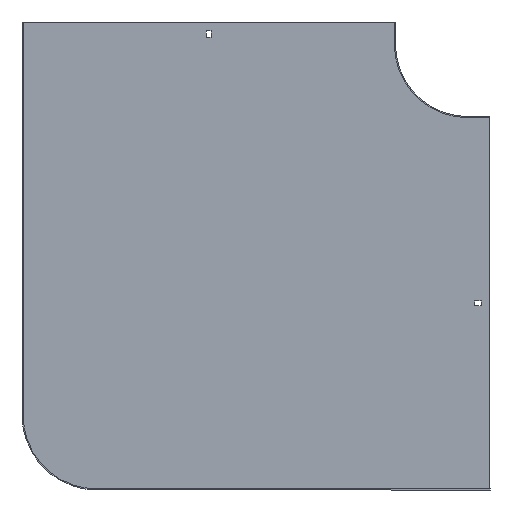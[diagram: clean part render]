
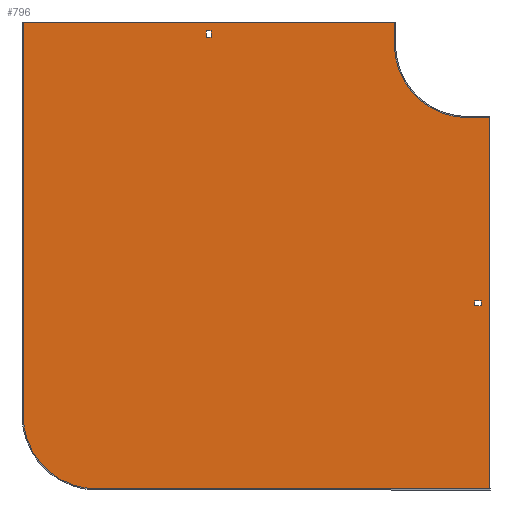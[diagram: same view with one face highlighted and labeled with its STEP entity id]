
A CAD part, front view. The second image highlights one B-rep face of the part: STEP entity #796.
In plain terms, the highlighted planar face has unit normal (0, -1, 0).
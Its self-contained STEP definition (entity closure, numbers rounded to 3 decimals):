
#9 = DIRECTION ( 'NONE',  ( 1., 0., 0. ) ) ;
#11 = ORIENTED_EDGE ( 'NONE', *, *, #288, .F. ) ;
#22 = DIRECTION ( 'NONE',  ( 0., 0., 1. ) ) ;
#23 = CARTESIAN_POINT ( 'NONE',  ( 0., -1.5, -348.75 ) ) ;
#29 = DIRECTION ( 'NONE',  ( 0., 0., -1. ) ) ;
#30 = EDGE_CURVE ( 'NONE', #336, #449, #264, .T. ) ;
#38 = VERTEX_POINT ( 'NONE', #388 ) ;
#49 = VERTEX_POINT ( 'NONE', #462 ) ;
#56 = DIRECTION ( 'NONE',  ( -1., 0., 0. ) ) ;
#58 = VERTEX_POINT ( 'NONE', #215 ) ;
#66 = LINE ( 'NONE', #542, #458 ) ;
#68 = CARTESIAN_POINT ( 'NONE',  ( -605.5, -1.5, 30. ) ) ;
#70 = VERTEX_POINT ( 'NONE', #780 ) ;
#83 = VECTOR ( 'NONE', #845, 1000. ) ;
#85 = CARTESIAN_POINT ( 'NONE',  ( -604., -1.5, 30. ) ) ;
#90 = FACE_OUTER_BOUND ( 'NONE', #594, .T. ) ;
#92 = ORIENTED_EDGE ( 'NONE', *, *, #446, .F. ) ;
#94 = CARTESIAN_POINT ( 'NONE',  ( 30., -1.5, -604. ) ) ;
#95 = CARTESIAN_POINT ( 'NONE',  ( 0., -1.5, 0. ) ) ;
#101 = CARTESIAN_POINT ( 'NONE',  ( -604., -1.5, -504. ) ) ;
#109 = CARTESIAN_POINT ( 'NONE',  ( 18., -1.5, -355.25 ) ) ;
#112 = LINE ( 'NONE', #575, #83 ) ;
#117 = LINE ( 'NONE', #698, #179 ) ;
#118 = EDGE_CURVE ( 'NONE', #514, #38, #539, .T. ) ;
#119 = CARTESIAN_POINT ( 'NONE',  ( 0., -1.5, 0. ) ) ;
#123 = LINE ( 'NONE', #605, #272 ) ;
#138 = DIRECTION ( 'NONE',  ( 1., 0., 0. ) ) ;
#147 = CARTESIAN_POINT ( 'NONE',  ( 18., -1.5, 0. ) ) ;
#151 = ORIENTED_EDGE ( 'NONE', *, *, #452, .F. ) ;
#156 = CARTESIAN_POINT ( 'NONE',  ( 0., -1.5, -355.25 ) ) ;
#159 = ORIENTED_EDGE ( 'NONE', *, *, #858, .F. ) ;
#179 = VECTOR ( 'NONE', #374, 1000. ) ;
#197 = VERTEX_POINT ( 'NONE', #447 ) ;
#202 = EDGE_CURVE ( 'NONE', #58, #783, #123, .T. ) ;
#207 = LINE ( 'NONE', #147, #271 ) ;
#211 = VECTOR ( 'NONE', #346, 1000. ) ;
#213 = VERTEX_POINT ( 'NONE', #316 ) ;
#215 = CARTESIAN_POINT ( 'NONE',  ( 30., -1.5, -100. ) ) ;
#221 = VECTOR ( 'NONE', #649, 1000. ) ;
#228 = LINE ( 'NONE', #464, #801 ) ;
#230 = CARTESIAN_POINT ( 'NONE',  ( 0., -1.5, 9. ) ) ;
#235 = DIRECTION ( 'NONE',  ( -1., 0., 0. ) ) ;
#246 = ORIENTED_EDGE ( 'NONE', *, *, #746, .F. ) ;
#253 = LINE ( 'NONE', #535, #625 ) ;
#260 = EDGE_CURVE ( 'NONE', #756, #213, #740, .T. ) ;
#264 = CIRCLE ( 'NONE', #624, 100. ) ;
#266 = LINE ( 'NONE', #23, #211 ) ;
#270 = FACE_BOUND ( 'NONE', #367, .T. ) ;
#271 = VECTOR ( 'NONE', #22, 1000. ) ;
#272 = VECTOR ( 'NONE', #463, 1000. ) ;
#278 = VECTOR ( 'NONE', #138, 1000. ) ;
#288 = EDGE_CURVE ( 'NONE', #70, #574, #266, .T. ) ;
#292 = AXIS2_PLACEMENT_3D ( 'NONE', #95, #631, #29 ) ;
#302 = VERTEX_POINT ( 'NONE', #511 ) ;
#316 = CARTESIAN_POINT ( 'NONE',  ( -100., -1.5, 30. ) ) ;
#319 = ORIENTED_EDGE ( 'NONE', *, *, #260, .F. ) ;
#325 = EDGE_CURVE ( 'NONE', #302, #672, #842, .T. ) ;
#326 = CARTESIAN_POINT ( 'NONE',  ( -348.75, -1.5, 0. ) ) ;
#336 = VERTEX_POINT ( 'NONE', #634 ) ;
#337 = LINE ( 'NONE', #156, #340 ) ;
#340 = VECTOR ( 'NONE', #477, 1000. ) ;
#346 = DIRECTION ( 'NONE',  ( -1., 0., 0. ) ) ;
#357 = VECTOR ( 'NONE', #235, 1000. ) ;
#367 = EDGE_LOOP ( 'NONE', ( #729, #578, #751, #528 ) ) ;
#374 = DIRECTION ( 'NONE',  ( 1., 0., 0. ) ) ;
#376 = LINE ( 'NONE', #450, #221 ) ;
#385 = ORIENTED_EDGE ( 'NONE', *, *, #573, .F. ) ;
#388 = CARTESIAN_POINT ( 'NONE',  ( 0., -1.5, -100. ) ) ;
#395 = EDGE_LOOP ( 'NONE', ( #11, #775, #246, #159 ) ) ;
#408 = VERTEX_POINT ( 'NONE', #505 ) ;
#416 = PLANE ( 'NONE',  #292 ) ;
#418 = DIRECTION ( 'NONE',  ( 0., 0., -1. ) ) ;
#440 = ORIENTED_EDGE ( 'NONE', *, *, #589, .F. ) ;
#446 = EDGE_CURVE ( 'NONE', #38, #58, #117, .T. ) ;
#447 = CARTESIAN_POINT ( 'NONE',  ( -348.75, -1.5, 18. ) ) ;
#449 = VERTEX_POINT ( 'NONE', #101 ) ;
#450 = CARTESIAN_POINT ( 'NONE',  ( -100., -1.5, 30. ) ) ;
#452 = EDGE_CURVE ( 'NONE', #783, #336, #585, .T. ) ;
#454 = CARTESIAN_POINT ( 'NONE',  ( -504., -1.5, -504. ) ) ;
#458 = VECTOR ( 'NONE', #469, 1000. ) ;
#462 = CARTESIAN_POINT ( 'NONE',  ( -355.25, -1.5, 18. ) ) ;
#463 = DIRECTION ( 'NONE',  ( 0., 0., -1. ) ) ;
#464 = CARTESIAN_POINT ( 'NONE',  ( 0., -1.5, 18. ) ) ;
#469 = DIRECTION ( 'NONE',  ( 0., 0., -1. ) ) ;
#472 = VERTEX_POINT ( 'NONE', #109 ) ;
#477 = DIRECTION ( 'NONE',  ( 1., 0., 0. ) ) ;
#505 = CARTESIAN_POINT ( 'NONE',  ( 9., -1.5, -355.25 ) ) ;
#507 = ORIENTED_EDGE ( 'NONE', *, *, #118, .F. ) ;
#509 = EDGE_CURVE ( 'NONE', #672, #49, #253, .T. ) ;
#511 = CARTESIAN_POINT ( 'NONE',  ( -348.75, -1.5, 9. ) ) ;
#514 = VERTEX_POINT ( 'NONE', #590 ) ;
#528 = ORIENTED_EDGE ( 'NONE', *, *, #509, .T. ) ;
#535 = CARTESIAN_POINT ( 'NONE',  ( -355.25, -1.5, 0. ) ) ;
#539 = CIRCLE ( 'NONE', #681, 100. ) ;
#541 = ORIENTED_EDGE ( 'NONE', *, *, #30, .F. ) ;
#542 = CARTESIAN_POINT ( 'NONE',  ( 9., -1.5, 0. ) ) ;
#568 = CARTESIAN_POINT ( 'NONE',  ( -355.25, -1.5, 9. ) ) ;
#570 = VECTOR ( 'NONE', #56, 1000. ) ;
#573 = EDGE_CURVE ( 'NONE', #213, #514, #376, .T. ) ;
#574 = VERTEX_POINT ( 'NONE', #629 ) ;
#575 = CARTESIAN_POINT ( 'NONE',  ( -604., -1.5, -504. ) ) ;
#578 = ORIENTED_EDGE ( 'NONE', *, *, #815, .T. ) ;
#585 = LINE ( 'NONE', #633, #357 ) ;
#589 = EDGE_CURVE ( 'NONE', #449, #756, #112, .T. ) ;
#590 = CARTESIAN_POINT ( 'NONE',  ( -100., -1.5, 0. ) ) ;
#594 = EDGE_LOOP ( 'NONE', ( #319, #440, #541, #151, #759, #92, #507, #385 ) ) ;
#595 = DIRECTION ( 'NONE',  ( 0., 0., -1. ) ) ;
#601 = LINE ( 'NONE', #326, #662 ) ;
#605 = CARTESIAN_POINT ( 'NONE',  ( 30., -1.5, -98.5 ) ) ;
#624 = AXIS2_PLACEMENT_3D ( 'NONE', #454, #675, #595 ) ;
#625 = VECTOR ( 'NONE', #784, 1000. ) ;
#629 = CARTESIAN_POINT ( 'NONE',  ( 9., -1.5, -348.75 ) ) ;
#631 = DIRECTION ( 'NONE',  ( 0., -1., 0. ) ) ;
#633 = CARTESIAN_POINT ( 'NONE',  ( 30., -1.5, -604. ) ) ;
#634 = CARTESIAN_POINT ( 'NONE',  ( -504., -1.5, -604. ) ) ;
#649 = DIRECTION ( 'NONE',  ( 0., 0., -1. ) ) ;
#653 = DIRECTION ( 'NONE',  ( 0., -1., 0. ) ) ;
#662 = VECTOR ( 'NONE', #663, 1000. ) ;
#663 = DIRECTION ( 'NONE',  ( 0., 0., -1. ) ) ;
#672 = VERTEX_POINT ( 'NONE', #568 ) ;
#675 = DIRECTION ( 'NONE',  ( 0., 1., 0. ) ) ;
#681 = AXIS2_PLACEMENT_3D ( 'NONE', #119, #653, #418 ) ;
#684 = EDGE_CURVE ( 'NONE', #472, #70, #207, .T. ) ;
#697 = FACE_BOUND ( 'NONE', #395, .T. ) ;
#698 = CARTESIAN_POINT ( 'NONE',  ( 0., -1.5, -100. ) ) ;
#729 = ORIENTED_EDGE ( 'NONE', *, *, #808, .T. ) ;
#740 = LINE ( 'NONE', #68, #278 ) ;
#746 = EDGE_CURVE ( 'NONE', #408, #472, #337, .T. ) ;
#751 = ORIENTED_EDGE ( 'NONE', *, *, #325, .T. ) ;
#756 = VERTEX_POINT ( 'NONE', #85 ) ;
#759 = ORIENTED_EDGE ( 'NONE', *, *, #202, .F. ) ;
#775 = ORIENTED_EDGE ( 'NONE', *, *, #684, .F. ) ;
#780 = CARTESIAN_POINT ( 'NONE',  ( 18., -1.5, -348.75 ) ) ;
#783 = VERTEX_POINT ( 'NONE', #94 ) ;
#784 = DIRECTION ( 'NONE',  ( 0., 0., 1. ) ) ;
#796 = ADVANCED_FACE ( 'NONE', ( #697, #90, #270 ), #416, .T. ) ;
#801 = VECTOR ( 'NONE', #9, 1000. ) ;
#808 = EDGE_CURVE ( 'NONE', #49, #197, #228, .T. ) ;
#815 = EDGE_CURVE ( 'NONE', #197, #302, #601, .T. ) ;
#842 = LINE ( 'NONE', #230, #570 ) ;
#845 = DIRECTION ( 'NONE',  ( 0., 0., 1. ) ) ;
#858 = EDGE_CURVE ( 'NONE', #574, #408, #66, .T. ) ;
